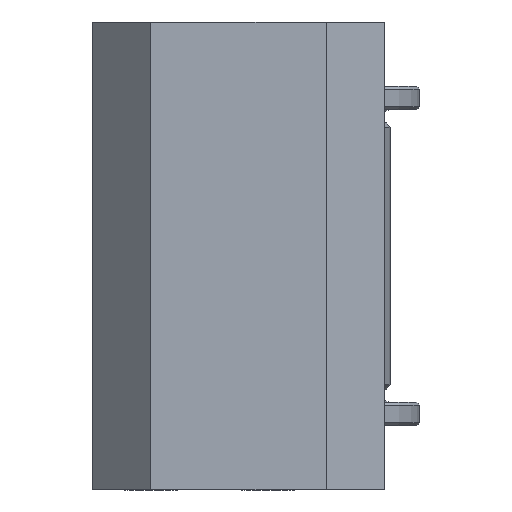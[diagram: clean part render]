
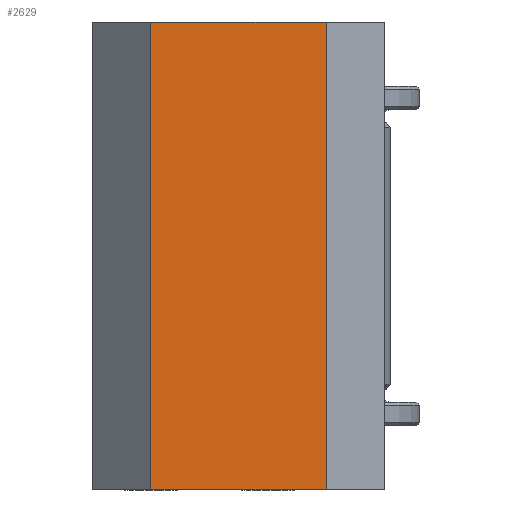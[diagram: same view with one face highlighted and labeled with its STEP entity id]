
A CAD part, left-side view. The second image highlights one B-rep face of the part: STEP entity #2629.
In plain terms, the highlighted planar face has unit normal (-1, 0, 0).
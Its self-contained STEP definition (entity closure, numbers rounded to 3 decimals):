
#12 = EDGE_CURVE ( 'NONE', #2024, #2276, #2504, .T. ) ;
#121 = VERTEX_POINT ( 'NONE', #880 ) ;
#248 = DIRECTION ( 'NONE',  ( 0., 0., -1. ) ) ;
#325 = AXIS2_PLACEMENT_3D ( 'NONE', #3380, #1830, #248 ) ;
#422 = LINE ( 'NONE', #2331, #3120 ) ;
#586 = VECTOR ( 'NONE', #1255, 1000. ) ;
#743 = CARTESIAN_POINT ( 'NONE',  ( 3., 4.625, -16.394 ) ) ;
#817 = CARTESIAN_POINT ( 'NONE',  ( 3., -3.375, -16.394 ) ) ;
#880 = CARTESIAN_POINT ( 'NONE',  ( 3., 4.625, -0.394 ) ) ;
#1001 = EDGE_CURVE ( 'NONE', #2276, #3306, #2081, .T. ) ;
#1005 = CARTESIAN_POINT ( 'NONE',  ( 3., -3.375, -0.394 ) ) ;
#1077 = FACE_OUTER_BOUND ( 'NONE', #3001, .T. ) ;
#1106 = DIRECTION ( 'NONE',  ( 0., -1., 0. ) ) ;
#1255 = DIRECTION ( 'NONE',  ( 0., 0., 1. ) ) ;
#1410 = ORIENTED_EDGE ( 'NONE', *, *, #1001, .T. ) ;
#1827 = DIRECTION ( 'NONE',  ( 0., 0., -1. ) ) ;
#1830 = DIRECTION ( 'NONE',  ( 1., 0., 0. ) ) ;
#1975 = EDGE_CURVE ( 'NONE', #121, #3306, #2209, .T. ) ;
#2024 = VERTEX_POINT ( 'NONE', #743 ) ;
#2037 = DIRECTION ( 'NONE',  ( 0., -1., 0. ) ) ;
#2045 = VECTOR ( 'NONE', #2037, 1000. ) ;
#2081 = LINE ( 'NONE', #3302, #586 ) ;
#2209 = LINE ( 'NONE', #1005, #2045 ) ;
#2276 = VERTEX_POINT ( 'NONE', #2414 ) ;
#2331 = CARTESIAN_POINT ( 'NONE',  ( 3., 4.625, -0.394 ) ) ;
#2414 = CARTESIAN_POINT ( 'NONE',  ( 3., -1.375, -16.394 ) ) ;
#2504 = LINE ( 'NONE', #817, #3211 ) ;
#2629 = ADVANCED_FACE ( 'NONE', ( #1077 ), #3122, .F. ) ;
#2680 = ORIENTED_EDGE ( 'NONE', *, *, #1975, .F. ) ;
#2859 = CARTESIAN_POINT ( 'NONE',  ( 3., -1.375, -0.394 ) ) ;
#2862 = ORIENTED_EDGE ( 'NONE', *, *, #12, .T. ) ;
#3001 = EDGE_LOOP ( 'NONE', ( #2680, #3328, #2862, #1410 ) ) ;
#3120 = VECTOR ( 'NONE', #1827, 1000. ) ;
#3122 = PLANE ( 'NONE',  #325 ) ;
#3211 = VECTOR ( 'NONE', #1106, 1000. ) ;
#3279 = EDGE_CURVE ( 'NONE', #121, #2024, #422, .T. ) ;
#3302 = CARTESIAN_POINT ( 'NONE',  ( 3., -1.375, -0.394 ) ) ;
#3306 = VERTEX_POINT ( 'NONE', #2859 ) ;
#3328 = ORIENTED_EDGE ( 'NONE', *, *, #3279, .T. ) ;
#3380 = CARTESIAN_POINT ( 'NONE',  ( 3., -3.375, -0.394 ) ) ;
